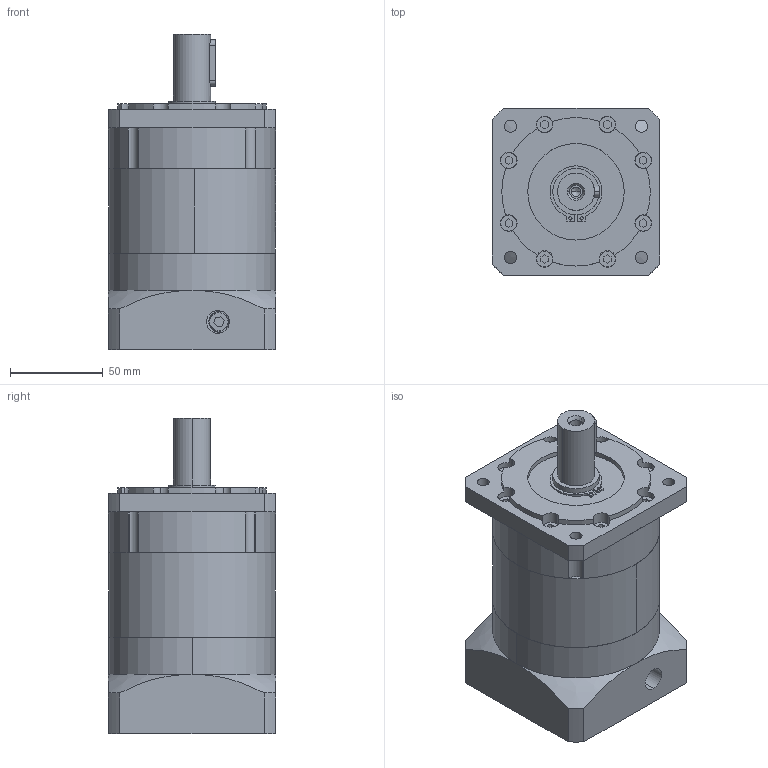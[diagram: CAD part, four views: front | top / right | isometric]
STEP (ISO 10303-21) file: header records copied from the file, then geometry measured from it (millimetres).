
FILE_DESCRIPTION (( 'STEP AP203' ), '1' );
FILE_NAME ('PLF090-L2塋拊佴杻ANDANTEX.STEP', '2021-04-12T14:16:01', ( 'Windows User' ), ( 'P R C' ), 'SwSTEP 2.0', 'SolidWorks 2016', '' );
FILE_SCHEMA (( 'CONFIG_CONTROL_DESIGN' ));
Length unit declared in the file: millimetre
Products named in the file (8): PLF90 狟屳唳_D6-90 D7-19 梓袧_1; 囀鞠褒蹟佪 M6x20_1; 邧埴瑩 6x6x25_3; 粣創-6007 35x62x14_1; PLF090-L2塋拊佴杻ANDANTEX; PLF90 蟀諉啣-梓袧_D8-70 D9-90 D10-M5 A2-90 L4-32 L6-47(32+15) L7-6 R-59.5梓袧_1; PLF90 內齿圈-优化_二级内齿圈; PLF90 奻屳唳_梓袧_1
Assembly tree (7 placements, depth 2):
  PLF090-L2塋拊佴杻ANDANTEX
    PLF90 蟀諉啣-梓袧_D8-70 D9-90 D10-M5 A2-90 L4-32 L6-47(32+15) L7-6 R-59.5梓袧_1
    PLF90 內齿圈-优化_二级内齿圈
    PLF90 奻屳唳_梓袧_1
    PLF90 狟屳唳_D6-90 D7-19 梓袧_1
    囀鞠褒蹟佪 M6x20_1
    邧埴瑩 6x6x25_3
    粣創-6007 35x62x14_1
Bounding box: 90 x 90 x 170 mm (x, y, z)
Volume: 808705.3 mm3; surface area: 149366 mm2
Topology: 7 solids, 7 shells, 991 faces, 2699 edges, 1783 vertices
Faces by surface type: plane 514, cylinder 210, bspline 111, sphere 88, torus 54, cone 14
Entity records: 39436 total; most frequent: CARTESIAN_POINT 14192, ORIENTED_EDGE 5378, DIRECTION 4662, EDGE_CURVE 2689, VERTEX_POINT 1783, AXIS2_PLACEMENT_3D 1670, LINE 1322, VECTOR 1322
